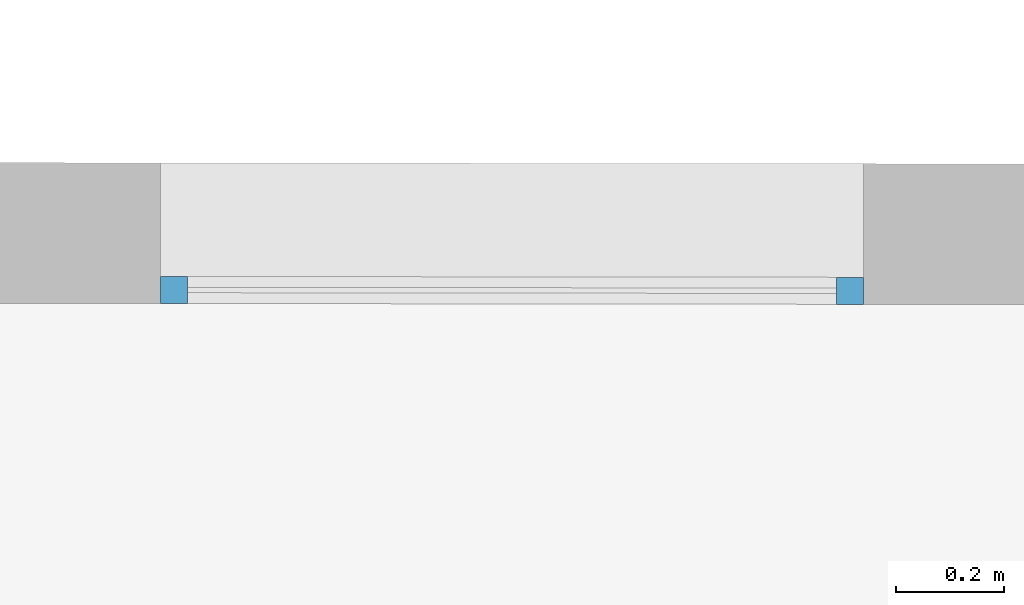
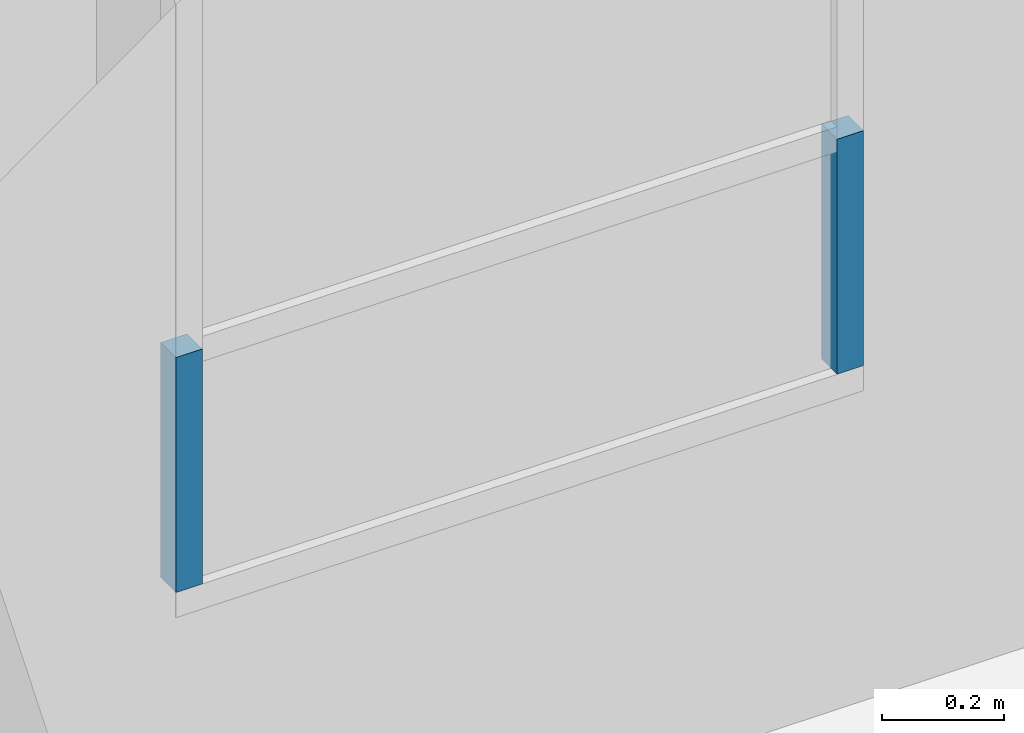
# One storey, part 32 of 101: 2 members, 1 element without a shape of its own.
"""IFC2X3 building model written with IfcOpenShell, lengths in metres."""

from ifc_helpers import new_model, entity, si_unit, converted_unit, derived_unit, direction, frame, origin, origin_2d_with_axis, place, context, subcontext, project, spatial, rectangle, extrude, source, transform, mapped, material, type_object, type_shapes, element, aggregate, save


model = new_model("IFC2X3")

# Units and contexts
model_context = context("Model", 3, precision=1e-05, world=origin(), true_north=direction((6.123233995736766e-17, 1.0)))
body_context = subcontext(model_context, "Body", "Model", "MODEL_VIEW")
ifc_project = project(units=[si_unit("LENGTHUNIT", "METRE"), si_unit("AREAUNIT", "SQUARE_METRE"), converted_unit("PLANEANGLEUNIT", "DEGREE", entity("IfcPlaneAngleMeasure", 0.017453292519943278), si_unit("PLANEANGLEUNIT", "RADIAN"), dimensions=[0, 0, 0, 0, 0, 0, 0]), derived_unit("THERMALTRANSMITTANCEUNIT", [(si_unit("MASSUNIT", "GRAM", prefix="KILO"), 1), (si_unit("THERMODYNAMICTEMPERATUREUNIT", "KELVIN"), -1), (si_unit("TIMEUNIT", "SECOND"), -3)])], contexts=[model_context])

# Site, building, storey
site_placement = place(None, frame((1253.6752467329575, 2072.143113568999, 91.49999999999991), z_axis=(0.0, 0.0, 1.0), x_axis=(0.7237211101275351, 0.6900925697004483, 0.0)))
site = spatial("IfcSite", under=ifc_project, at=site_placement, Name="Surface", CompositionType="ELEMENT")
building_placement = place(site_placement, origin())
building = spatial("IfcBuilding", under=site, at=building_placement, CompositionType="ELEMENT")
storey_placement = place(building_placement, origin())
storey = spatial("IfcBuildingStorey", under=building, at=storey_placement, Name="0- Rdc", CompositionType="ELEMENT", Elevation=-5.764692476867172e-13)

# Curtain wall, members
curtain_wall_type = type_object("IfcCurtainWallType", Name="Mur-rideau:Menuiserie Ext 1F+1OB VERTIC", PredefinedType="NOTDEFINED")
curtain_wall_placement = place(storey_placement, origin())
curtain_wall = element("IfcCurtainWall", 1, at=curtain_wall_placement, inside=storey, type_object=curtain_wall_type, Name="Mur-rideau:Menuiserie Ext 1F+1OB VERTIC", ObjectType="Mur-rideau:Menuiserie Ext 1F+1OB VERTIC")
ifc_material = material(Name="OMD_Aluminium Men Ext")
member_type_1 = type_object("IfcMemberType", Name="Meneau rectangulaire:50x50", PredefinedType="MULLION", material=ifc_material)
shared_shape_1 = source(origin(), body_context, "Body", "SweptSolid", [
    extrude(rectangle(XDim=0.05, YDim=0.049999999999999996, at=origin_2d_with_axis()), frame((-0.025, 0.0, -0.4699999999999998), z_axis=(0.0, 0.0, 1.0), x_axis=(-1.0, 0.0, 0.0)), (0.0, 0.0, 1.0), 0.4699999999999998),
])
type_shapes(member_type_1, [shared_shape_1])
member_1_placement = place(curtain_wall_placement, frame((170.59931102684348, 23.173092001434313, 0.6699999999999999), z_axis=(0.0, 0.0, -1.0), x_axis=(-0.7228702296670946, 0.6909838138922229, 0.0)))
member_1 = element("IfcMember", 2, at=member_1_placement, type_object=member_type_1, material=ifc_material, Name="Meneau rectangulaire:50x50", ObjectType="Meneau rectangulaire:50x50", context=body_context, shape_type="MappedRepresentation", body=[
    mapped(shared_shape_1, transform((0.0, 0.0, 0.0), scale=1.0)),
])
member_type_2 = type_object("IfcMemberType", Name="Meneau rectangulaire:50x50", PredefinedType="MULLION", material=ifc_material)
shared_shape_2 = source(origin(), body_context, "Body", "SweptSolid", [
    extrude(rectangle(XDim=0.05, YDim=0.05000000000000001, at=origin_2d_with_axis()), frame((-0.025, 0.0, -0.4699999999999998), z_axis=(0.0, 0.0, 1.0), x_axis=(-1.0, 0.0, 0.0)), (0.0, 0.0, 1.0), 0.4699999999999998),
])
type_shapes(member_type_2, [shared_shape_2])
member_2_placement = place(curtain_wall_placement, frame((171.538822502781, 22.275023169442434, 1.14), z_axis=(0.0, 0.0, 1.0), x_axis=(0.7228702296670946, -0.6909838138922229, 0.0)))
member_2 = element("IfcMember", 3, at=member_2_placement, type_object=member_type_2, material=ifc_material, Name="Meneau rectangulaire:50x50", ObjectType="Meneau rectangulaire:50x50", context=body_context, shape_type="MappedRepresentation", body=[
    mapped(shared_shape_2, transform((0.0, 0.0, 0.0), scale=1.0)),
])
aggregate(curtain_wall, [member_1, member_2])

save(model, "model.ifc")
